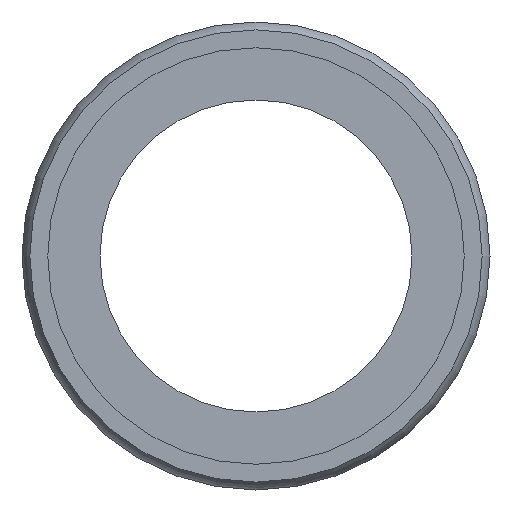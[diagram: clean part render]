
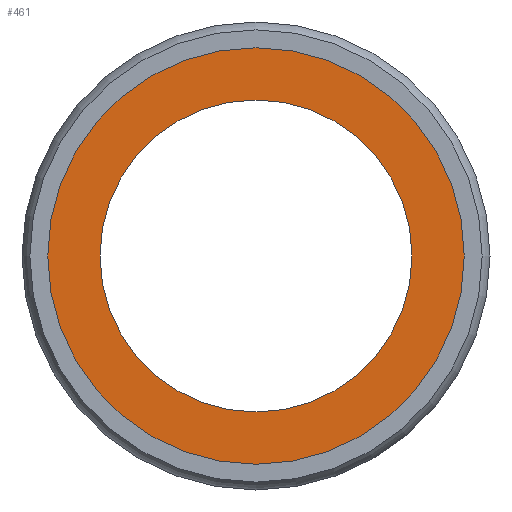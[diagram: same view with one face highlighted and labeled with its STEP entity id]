
A CAD part, left-side view. The second image highlights one B-rep face of the part: STEP entity #461.
In plain terms, the highlighted planar face has unit normal (-1, 0, 0).
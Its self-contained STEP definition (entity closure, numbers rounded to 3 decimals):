
#434=CARTESIAN_POINT('',(0.1,0.0,23.35));
#435=DIRECTION('',(-1.0,0.0,0.0));
#436=DIRECTION('',(0.0,0.0,1.0));
#437=AXIS2_PLACEMENT_3D('',#434,#435,#436);
#438=PLANE('',#437);
#439=CARTESIAN_POINT('',(0.1,0.0,26.7));
#440=VERTEX_POINT('',#439);
#441=CARTESIAN_POINT('',(0.1,0.0,0.));
#442=DIRECTION('',(1.0,0.0,0.0));
#443=DIRECTION('',(0.0,0.0,1.0));
#444=AXIS2_PLACEMENT_3D('',#441,#442,#443);
#445=CIRCLE('',#444,26.7);
#446=EDGE_CURVE('',#440,#440,#445,.T.);
#447=ORIENTED_EDGE('',*,*,#446,.F.);
#448=EDGE_LOOP('',(#447));
#449=FACE_OUTER_BOUND('',#448,.T.);
#450=CARTESIAN_POINT('',(0.1,0.0,20.));
#451=VERTEX_POINT('',#450);
#452=CARTESIAN_POINT('',(0.1,0.0,0.));
#453=DIRECTION('',(-1.0,0.0,0.0));
#454=DIRECTION('',(0.0,0.0,1.0));
#455=AXIS2_PLACEMENT_3D('',#452,#453,#454);
#456=CIRCLE('',#455,20.);
#457=EDGE_CURVE('',#451,#451,#456,.T.);
#458=ORIENTED_EDGE('',*,*,#457,.F.);
#459=EDGE_LOOP('',(#458));
#460=FACE_BOUND('',#459,.T.);
#461=ADVANCED_FACE('',(#449,#460),#438,.T.);
